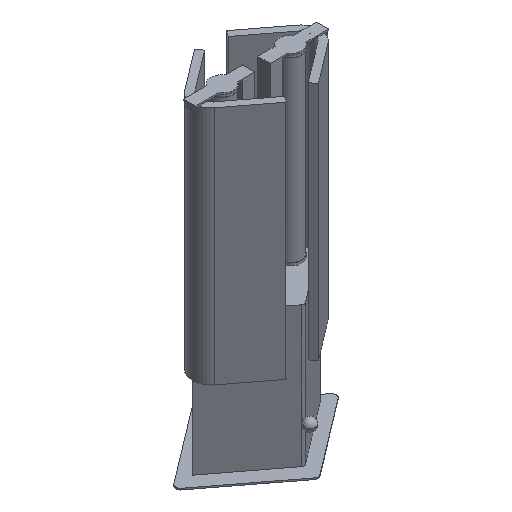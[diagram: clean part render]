
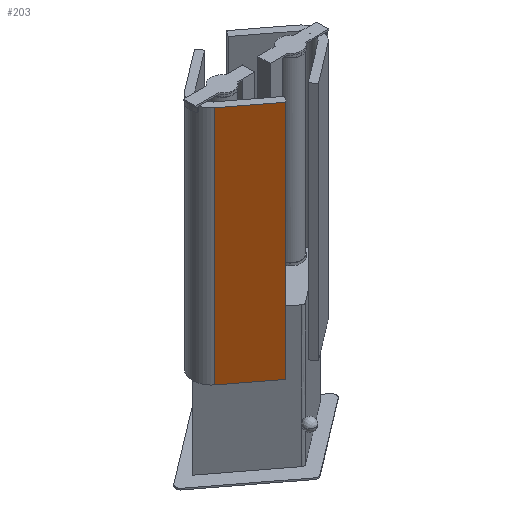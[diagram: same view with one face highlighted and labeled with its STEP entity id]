
A CAD part, isometric view. The second image highlights one B-rep face of the part: STEP entity #203.
In plain terms, the highlighted planar face has unit normal (-0.606, -0.795, 0).
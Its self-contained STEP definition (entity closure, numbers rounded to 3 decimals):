
#203=ADVANCED_FACE('',(#371),#2861,.T.);
#371=FACE_OUTER_BOUND('',#555,.T.);
#555=EDGE_LOOP('',(#1321,#1322,#1323,#1324));
#1321=ORIENTED_EDGE('',*,*,#1871,.T.);
#1322=ORIENTED_EDGE('',*,*,#1872,.T.);
#1323=ORIENTED_EDGE('',*,*,#1873,.T.);
#1324=ORIENTED_EDGE('',*,*,#1874,.T.);
#1871=EDGE_CURVE('',#2659,#2660,#2349,.T.);
#1872=EDGE_CURVE('',#2660,#2661,#2350,.T.);
#1873=EDGE_CURVE('',#2661,#2662,#2351,.T.);
#1874=EDGE_CURVE('',#2662,#2659,#2352,.T.);
#2349=B_SPLINE_CURVE_WITH_KNOTS('',1,(#5201,#5202),.UNSPECIFIED.,.F.,.F.,
(2,2),(-104.608,0.),.UNSPECIFIED.);
#2350=B_SPLINE_CURVE_WITH_KNOTS('',1,(#5203,#5204),.UNSPECIFIED.,.F.,.F.,
(2,2),(0.,495.),.UNSPECIFIED.);
#2351=B_SPLINE_CURVE_WITH_KNOTS('',1,(#5205,#5206),.UNSPECIFIED.,.F.,.F.,
(2,2),(-104.608,0.),.UNSPECIFIED.);
#2352=B_SPLINE_CURVE_WITH_KNOTS('',1,(#5207,#5208),.UNSPECIFIED.,.F.,.F.,
(2,2),(-495.,0.),.UNSPECIFIED.);
#2659=VERTEX_POINT('',#5185);
#2660=VERTEX_POINT('',#5186);
#2661=VERTEX_POINT('',#5187);
#2662=VERTEX_POINT('',#5188);
#2861=PLANE('',#2994);
#2994=AXIS2_PLACEMENT_3D('',#5141,#3110,$);
#3110=DIRECTION('',(-0.606,-0.795,0.));
#5141=CARTESIAN_POINT('',(-124.73,-24.314,128.097));
#5185=CARTESIAN_POINT('',(-116.277,-30.758,177.717));
#5186=CARTESIAN_POINT('',(-33.08,-94.171,177.717));
#5187=CARTESIAN_POINT('',(-33.08,-94.171,672.717));
#5188=CARTESIAN_POINT('',(-116.277,-30.758,672.717));
#5201=CARTESIAN_POINT('',(-116.277,-30.758,177.717));
#5202=CARTESIAN_POINT('',(-33.08,-94.171,177.717));
#5203=CARTESIAN_POINT('',(-33.08,-94.171,177.717));
#5204=CARTESIAN_POINT('',(-33.08,-94.171,672.717));
#5205=CARTESIAN_POINT('',(-33.08,-94.171,672.717));
#5206=CARTESIAN_POINT('',(-116.277,-30.758,672.717));
#5207=CARTESIAN_POINT('',(-116.277,-30.758,672.717));
#5208=CARTESIAN_POINT('',(-116.277,-30.758,177.717));
